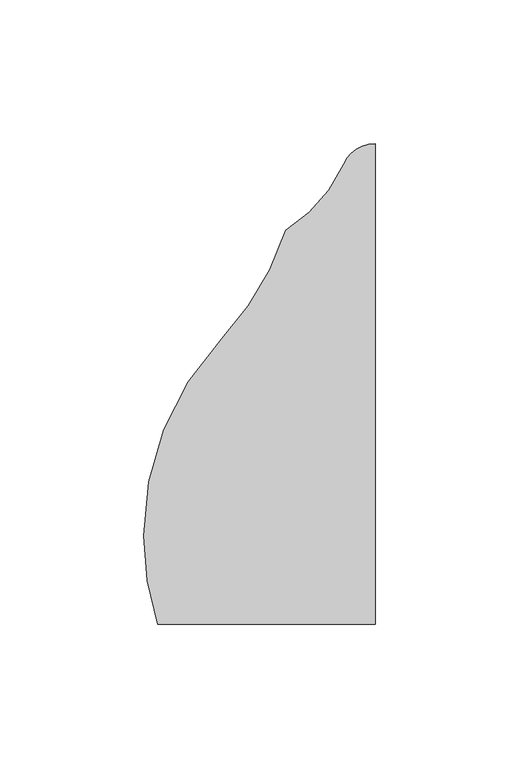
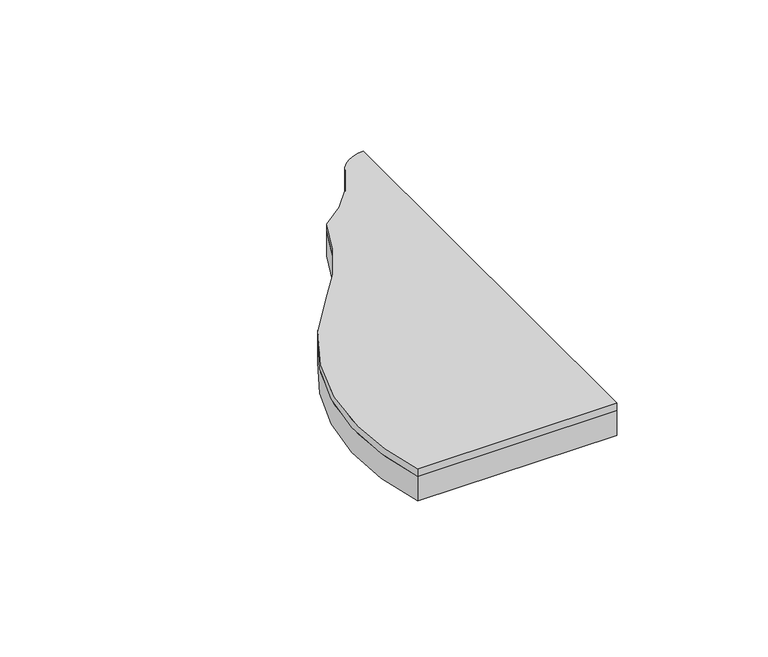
"""IFC4 building model written with IfcOpenShell, lengths in millimetres: proxy geometry, FilzFelt_Fish_Block : Fish Block."""

from ifc_helpers import new_model, si_unit, frame, origin, place, context, project, spatial, polyline, circle_curve, source, transform, mapped, element, save
from ifc_brep_helpers import plane_surface, cylinder_surface, revolved_surface, advanced_brep


def specialty_equipment_e5bbc03e(model_context):
    return source(origin(), model_context, "Body", "AdvancedBrep", [
        advanced_brep(
        [(-53.5486457, 68.6120133, 10.0210937), (-31.2619065, 106.3338576, 10.0210937), (-11.0103348, 129.4133496, 10.0210937), (0.0, 136.5838795, 10.0210937), (0.0, -30.890169, 10.0210937), (-75.8353849, -30.890169, 10.0210937), (-80.7142226, 0.0, 10.0210937), (-11.0103348, 129.4133496, 12.9976563), (-31.2619065, 106.3338576, 12.9976563), (-53.5486457, 68.6120133, 12.9976563), (-80.7142226, 0.0, 12.9976563), (-75.8353849, -30.890169, 12.9976563), (0.0, -30.890169, 12.9976563), (0.0, 136.5838795, 12.9976563)],
        [
            (0, 1, circle_curve(frame((-126.6124317, 137.2240266, 10.0210937), z_axis=(0.0, 0.0, 1.0), x_axis=(-1.0, 0.0, 0.0)), 100.2293629)),
            (1, 2, circle_curve(frame((-57.9263497, 150.1559416, 10.0210937), z_axis=(0.0, 0.0, 1.0), x_axis=(-1.0, 0.0, 0.0)), 51.2968574)),
            (2, 3, circle_curve(frame((0.0, 124.5454408, 10.0210937), z_axis=(0.0, 0.0, -1.0), x_axis=(-1.0, 0.0, 0.0)), 12.0384388)),
            (3, 4),
            (4, 5),
            (5, 6, circle_curve(frame((19.5151403, 0.0, 10.0210937), z_axis=(0.0, 0.0, -1.0), x_axis=(-1.0, 0.0, 0.0)), 100.2293629)),
            (6, 0, circle_curve(frame((19.5151403, 0.0, 10.0210937), z_axis=(0.0, 0.0, -1.0), x_axis=(-1.0, 0.0, 0.0)), 100.2293629)),
            (7, 8, circle_curve(frame((-57.9263497, 150.1559416, 12.9976563), z_axis=(0.0, 0.0, -1.0), x_axis=(-1.0, 0.0, 0.0)), 51.2968574)),
            (8, 9, circle_curve(frame((-126.6124317, 137.2240266, 12.9976563), z_axis=(0.0, 0.0, -1.0), x_axis=(-1.0, 0.0, 0.0)), 100.2293629)),
            (9, 10, circle_curve(frame((19.5151403, 0.0, 12.9976563), z_axis=(0.0, 0.0, 1.0), x_axis=(-1.0, 0.0, 0.0)), 100.2293629)),
            (10, 11, circle_curve(frame((19.5151403, 0.0, 12.9976563), z_axis=(0.0, 0.0, 1.0), x_axis=(-1.0, 0.0, 0.0)), 100.2293629)),
            (11, 12),
            (12, 13),
            (13, 7, circle_curve(frame((0.0, 124.5454408, 12.9976563), z_axis=(0.0, 0.0, 1.0), x_axis=(-1.0, 0.0, 0.0)), 12.0384388)),
            (9, 0),
            (5, 11),
            (8, 1),
            (7, 2),
            (13, 3),
            (4, 12),
        ],
        [
            plane_surface(frame((0.0, 0.0, 10.0210937), z_axis=(0.0, 0.0, -1.0), x_axis=(0.0, -1.0, 0.0))),
            plane_surface(frame((0.0, 0.0, 12.9976563), z_axis=(0.0, 0.0, 1.0), x_axis=(0.0, -1.0, 0.0))),
            cylinder_surface(frame((19.5151403, 0.0, 10.0210937), z_axis=(0.0, 0.0, -1.0), x_axis=(-1.0, 0.0, 0.0)), 100.2293629),
            revolved_surface(polyline([(-226.84179460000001, 137.2240266, 12.9976563), (-226.84179460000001, 137.2240266, 10.0210937)]), (-126.6124317, 137.2240266, 10.0210937), (0.0, 0.0, 1.0)),
            revolved_surface(polyline([(-109.2232071, 150.1559416, 12.9976563), (-109.2232071, 150.1559416, 10.0210937)]), (-57.9263497, 150.1559416, 10.0210937), (0.0, 0.0, 1.0)),
            cylinder_surface(frame((0.0, 124.5454408, 10.0210937), z_axis=(0.0, 0.0, -1.0), x_axis=(-1.0, 0.0, 0.0)), 12.0384388),
            plane_surface(frame((112.4642226, -30.890169, 12.9976562), z_axis=(0.0, -1.0, 0.0), x_axis=(0.0, 0.0, -1.0))),
            plane_surface(frame((0.0, -199.8641956, 12.9976562), z_axis=(1.0, 0.0, 0.0), x_axis=(0.0, 0.0, 1.0))),
        ],
        [
            (0, [[1, 2, 3, 4, 5, 6, 7]]),
            (1, [[8, 9, 10, 11, 12, 13, 14]]),
            (2, [[15, -7, -6, 16, -11, -10]]),
            (3, [[-1, -15, -9, 17]]),
            (4, [[-2, -17, -8, 18]]),
            (5, [[-18, -14, 19, -3]]),
            (6, [[-16, -5, 20, -12]]),
            (7, [[-4, -19, -13, -20]]),
        ],
    ),
        advanced_brep(
        [(-53.5486457, 68.6120133, 0.0), (-31.2619065, 106.3338576, 0.0), (-11.0103348, 129.4133496, 0.0), (0.0, 136.5838795, 0.0), (0.0, -30.890169, 0.0), (-75.8353849, -30.890169, 0.0), (-80.7142226, 0.0, 0.0), (-11.0103348, 129.4133496, 10.0210937), (-31.2619065, 106.3338576, 10.0210937), (-53.5486457, 68.6120133, 10.0210937), (-80.7142226, 0.0, 10.0210937), (-75.8353849, -30.890169, 10.0210937), (0.0, -30.890169, 10.0210937), (0.0, 136.5838795, 10.0210937)],
        [
            (0, 1, circle_curve(frame((-126.6124317, 137.2240266, 0.0), z_axis=(0.0, 0.0, 1.0), x_axis=(-1.0, 0.0, 0.0)), 100.2293629)),
            (1, 2, circle_curve(frame((-57.9263497, 150.1559416, 0.0), z_axis=(0.0, 0.0, 1.0), x_axis=(-1.0, 0.0, 0.0)), 51.2968574)),
            (2, 3, circle_curve(frame((0.0, 124.5454408, 0.0), z_axis=(0.0, 0.0, -1.0), x_axis=(-1.0, 0.0, 0.0)), 12.0384388)),
            (3, 4),
            (4, 5),
            (5, 6, circle_curve(frame((19.5151403, 0.0, 0.0), z_axis=(0.0, 0.0, -1.0), x_axis=(-1.0, 0.0, 0.0)), 100.2293629)),
            (6, 0, circle_curve(frame((19.5151403, 0.0, 0.0), z_axis=(0.0, 0.0, -1.0), x_axis=(-1.0, 0.0, 0.0)), 100.2293629)),
            (7, 8, circle_curve(frame((-57.9263497, 150.1559416, 10.0210937), z_axis=(0.0, 0.0, -1.0), x_axis=(-1.0, 0.0, 0.0)), 51.2968574)),
            (8, 9, circle_curve(frame((-126.6124317, 137.2240266, 10.0210937), z_axis=(0.0, 0.0, -1.0), x_axis=(-1.0, 0.0, 0.0)), 100.2293629)),
            (9, 10, circle_curve(frame((19.5151403, 0.0, 10.0210937), z_axis=(0.0, 0.0, 1.0), x_axis=(-1.0, 0.0, 0.0)), 100.2293629)),
            (10, 11, circle_curve(frame((19.5151403, 0.0, 10.0210937), z_axis=(0.0, 0.0, 1.0), x_axis=(-1.0, 0.0, 0.0)), 100.2293629)),
            (11, 12),
            (12, 13),
            (13, 7, circle_curve(frame((0.0, 124.5454408, 10.0210937), z_axis=(0.0, 0.0, 1.0), x_axis=(-1.0, 0.0, 0.0)), 12.0384388)),
            (9, 0),
            (5, 11),
            (8, 1),
            (7, 2),
            (13, 3),
            (4, 12),
        ],
        [
            plane_surface(frame((0.0, 0.0, 0.0), z_axis=(0.0, 0.0, -1.0), x_axis=(0.0, -1.0, 0.0))),
            plane_surface(frame((0.0, 0.0, 10.0210937), z_axis=(0.0, 0.0, 1.0), x_axis=(0.0, -1.0, 0.0))),
            cylinder_surface(frame((19.5151403, 0.0, 0.0), z_axis=(0.0, 0.0, -1.0), x_axis=(-1.0, 0.0, 0.0)), 100.2293629),
            revolved_surface(polyline([(-226.84179460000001, 137.2240266, 10.0210937), (-226.84179460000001, 137.2240266, 0.0)]), (-126.6124317, 137.2240266, 0.0), (0.0, 0.0, 1.0)),
            revolved_surface(polyline([(-109.2232071, 150.1559416, 10.0210937), (-109.2232071, 150.1559416, 0.0)]), (-57.9263497, 150.1559416, 0.0), (0.0, 0.0, 1.0)),
            cylinder_surface(frame((0.0, 124.5454408, 0.0), z_axis=(0.0, 0.0, -1.0), x_axis=(-1.0, 0.0, 0.0)), 12.0384388),
            plane_surface(frame((112.4642226, -30.890169, 12.9976562), z_axis=(0.0, -1.0, 0.0), x_axis=(0.0, 0.0, -1.0))),
            plane_surface(frame((0.0, -199.8641956, 12.9976562), z_axis=(1.0, 0.0, 0.0), x_axis=(0.0, 0.0, 1.0))),
        ],
        [
            (0, [[1, 2, 3, 4, 5, 6, 7]]),
            (1, [[8, 9, 10, 11, 12, 13, 14]]),
            (2, [[15, -7, -6, 16, -11, -10]]),
            (3, [[-1, -15, -9, 17]]),
            (4, [[-2, -17, -8, 18]]),
            (5, [[-18, -14, 19, -3]]),
            (6, [[-16, -5, 20, -12]]),
            (7, [[-4, -19, -13, -20]]),
        ],
    ),
    ])


if __name__ == "__main__":
    model = new_model("IFC4")
    model_context = context("Model", 3, world=origin())
    ifc_project = project(units=[si_unit("LENGTHUNIT", "METRE", prefix="MILLI")], contexts=[model_context])
    site = spatial("IfcSite", under=ifc_project)
    building = spatial("IfcBuilding", under=site)
    placement = place(None, origin())
    specialty_equipment_shape = specialty_equipment_e5bbc03e(model_context)
    element("IfcBuildingElementProxy", 1, Name="FilzFelt_Fish_Block : Fish Block", ObjectType="FilzFelt_Fish_Block : Fish Block", at=placement, inside=building, context=model_context, shape_type="MappedRepresentation", body=[
        mapped(specialty_equipment_shape, transform((0.0, 0.0, 0.0), x_axis=(1.0, 0.0, 0.0), y_axis=(0.0, 1.0, 0.0), z_axis=(0.0, 0.0, 1.0))),
    ])
    save(model, "model.ifc")
